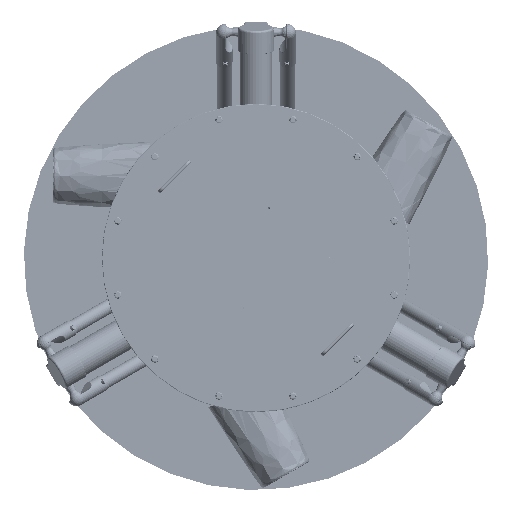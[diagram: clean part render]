
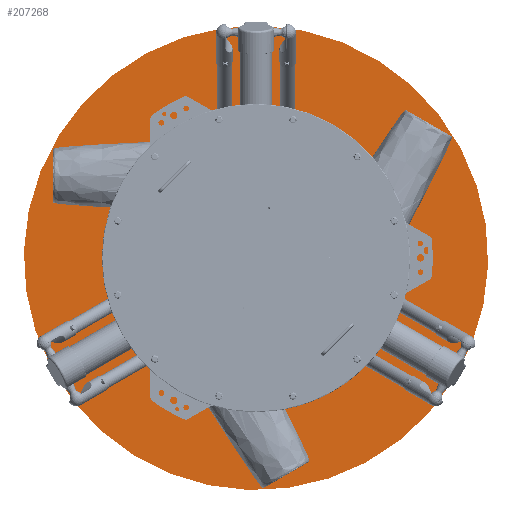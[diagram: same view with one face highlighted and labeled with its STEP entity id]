
A CAD part, front view. The second image highlights one B-rep face of the part: STEP entity #207268.
In plain terms, the highlighted planar face has unit normal (0, -1, 0) as drawn and (0, 1, 0) by its records, which use the part's own axes.
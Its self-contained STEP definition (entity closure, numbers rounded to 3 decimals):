
#28182 = DIRECTION ( 'NONE',  ( 0., 0., 1. ) ) ;
#40629 = VERTEX_POINT ( 'NONE', #305720 ) ;
#62006 = AXIS2_PLACEMENT_3D ( 'NONE', #327250, #96052, #129262 ) ;
#96052 = DIRECTION ( 'NONE',  ( 0., -1., 0. ) ) ;
#119429 = FACE_OUTER_BOUND ( 'NONE', #286658, .T. ) ;
#129262 = DIRECTION ( 'NONE',  ( 0., 0., -1. ) ) ;
#163533 = EDGE_CURVE ( 'NONE', #40629, #40629, #324017, .T. ) ;
#199868 = CARTESIAN_POINT ( 'NONE',  ( 0., 375., 0. ) ) ;
#207268 = ADVANCED_FACE ( 'NONE', ( #119429 ), #331258, .T. ) ;
#225876 = DIRECTION ( 'NONE',  ( 0., 1., 0. ) ) ;
#286658 = EDGE_LOOP ( 'NONE', ( #360463 ) ) ;
#305720 = CARTESIAN_POINT ( 'NONE',  ( 0., 375., -565. ) ) ;
#311473 = AXIS2_PLACEMENT_3D ( 'NONE', #199868, #225876, #28182 ) ;
#324017 = CIRCLE ( 'NONE', #62006, 565. ) ;
#327250 = CARTESIAN_POINT ( 'NONE',  ( 0., 375., 0. ) ) ;
#331258 = PLANE ( 'NONE',  #311473 ) ;
#360463 = ORIENTED_EDGE ( 'NONE', *, *, #163533, .F. ) ;
